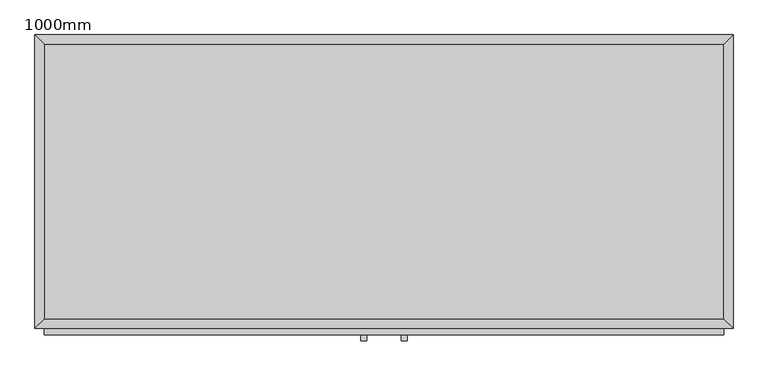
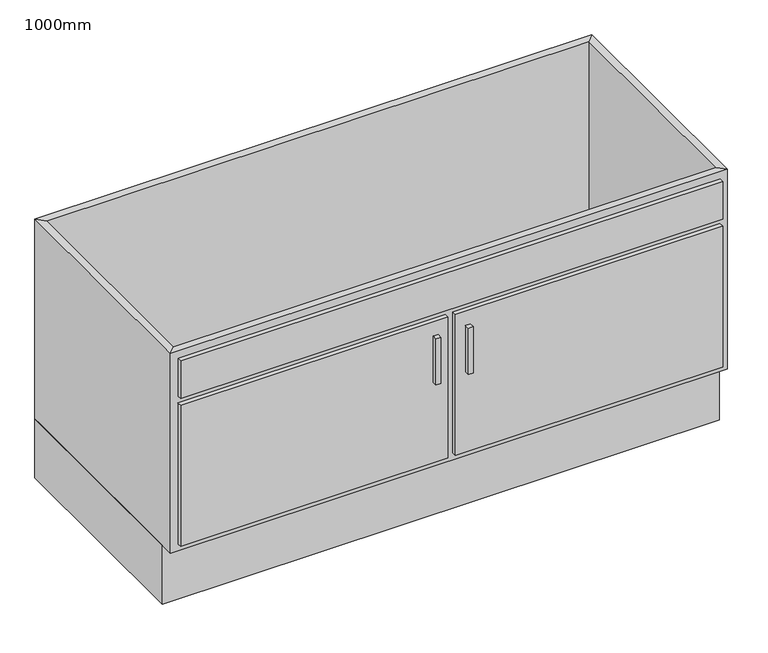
"""IFC4 building model written with IfcOpenShell, lengths in millimetres: furniture geometry, 化粧台 - 両開きドア シンク ユニット - 3D : 1000mm."""

from ifc_helpers import new_model, si_unit, frame, origin, origin_with_axes, place, context, project, spatial, polyline, outline, extrude, faceted_brep, source, transform, mapped, element, save


def furniture_1000mm_7691bfd8(model_context):
    return source(origin(), model_context, "Body", "SolidModel", [
        extrude(outline(polyline([(731.2377049, 0.0), (731.2377049, -565.0), (-693.7622951, -565.0), (-693.7622951, 0.0), (731.2377049, 0.0)])), origin_with_axes(), (0.0, 0.0, 1.0), 160.0),
        faceted_brep([(712.1877049, -580.95, 700.0), (712.1877049, -580.95, 160.0), (-674.7122951, -580.95, 160.0), (-674.7122951, -580.95, 700.0), (731.2377049, -600.0, 700.0), (-693.7622951, -600.0, 700.0), (731.2377049, -600.0, 160.0), (-693.7622951, -600.0, 160.0), (-674.7122951, -19.05, 160.0), (-674.7122951, -19.05, 700.0), (-693.7622951, 0.0, 700.0), (-693.7622951, 0.0, 160.0), (712.1877049, -19.05, 160.0), (712.1877049, -19.05, 700.0), (731.2377049, 0.0, 700.0), (731.2377049, 0.0, 160.0)], [[[0, 1, 2, 3]], [[4, 0, 3, 5]], [[6, 4, 5, 7]], [[1, 6, 7, 2]], [[3, 2, 8, 9]], [[5, 3, 9, 10]], [[7, 5, 10, 11]], [[2, 7, 11, 8]], [[9, 8, 12, 13]], [[10, 9, 13, 14]], [[11, 10, 14, 15]], [[8, 11, 15, 12]], [[13, 12, 1, 0]], [[14, 13, 0, 4]], [[15, 14, 4, 6]], [[12, 15, 6, 1]]]),
        extrude(outline(polyline([(712.1877049, -19.05), (712.1877049, -580.95), (-674.7122951, -580.95), (-674.7122951, -19.05), (712.1877049, -19.05)])), frame((0.0, 0.0, 160.0), z_axis=(0.0, 0.0, 1.0), x_axis=(1.0, 0.0, 0.0)), (0.0, 0.0, 1.0), 19.05),
        extrude(outline(polyline([(-16.1872951, -625.4), (-28.8872951, -625.4), (-28.8872951, -612.7), (-16.1872951, -612.7), (-16.1872951, -625.4)])), frame((0.0, 0.0, 397.469895), z_axis=(0.0, 0.0, 1.0), x_axis=(1.0, 0.0, 0.0)), (0.0, 0.0, 1.0), 124.730105),
        extrude(outline(polyline([(66.3627049, -625.4), (53.6627049, -625.4), (53.6627049, -612.7), (66.3627049, -612.7), (66.3627049, -625.4)])), frame((0.0, 0.0, 397.469895), z_axis=(0.0, 0.0, 1.0), x_axis=(1.0, 0.0, 0.0)), (0.0, 0.0, 1.0), 124.730105),
        extrude(outline(polyline([(9.2127049, -612.7), (-674.7122951, -612.7), (-674.7122951, -600.0), (9.2127049, -600.0), (9.2127049, -612.7)])), frame((0.0, 0.0, 179.05), z_axis=(0.0, 0.0, 1.0), x_axis=(1.0, 0.0, 0.0)), (0.0, 0.0, 1.0), 381.25),
        extrude(outline(polyline([(712.1877049, -612.7), (28.2627049, -612.7), (28.2627049, -600.0), (712.1877049, -600.0), (712.1877049, -612.7)])), frame((0.0, 0.0, 179.05), z_axis=(0.0, 0.0, 1.0), x_axis=(1.0, 0.0, 0.0)), (0.0, 0.0, 1.0), 381.25),
        extrude(outline(polyline([(712.1877049, -612.7), (-674.7122951, -612.7), (-674.7122951, -600.0), (712.1877049, -600.0), (712.1877049, -612.7)])), frame((0.0, 0.0, 579.35), z_axis=(0.0, 0.0, 1.0), x_axis=(1.0, 0.0, 0.0)), (0.0, 0.0, 1.0), 101.6),
    ])


if __name__ == "__main__":
    model = new_model("IFC4")
    model_context = context("Model", 3, world=origin())
    ifc_project = project(units=[si_unit("LENGTHUNIT", "METRE", prefix="MILLI")], contexts=[model_context])
    site = spatial("IfcSite", under=ifc_project)
    building = spatial("IfcBuilding", under=site)
    placement = place(None, origin())
    furniture_1000mm_shape = furniture_1000mm_7691bfd8(model_context)
    element("IfcFurniture", 1, ObjectType="化粧台 - 両開きドア シンク ユニット - 3D : 1000mm", at=placement, inside=building, context=model_context, shape_type="MappedRepresentation", body=[
        mapped(furniture_1000mm_shape, transform((0.0, 0.0, 0.0), x_axis=(1.0, 0.0, 0.0), y_axis=(0.0, 1.0, 0.0), z_axis=(0.0, 0.0, 1.0))),
    ])
    save(model, "model.ifc")
